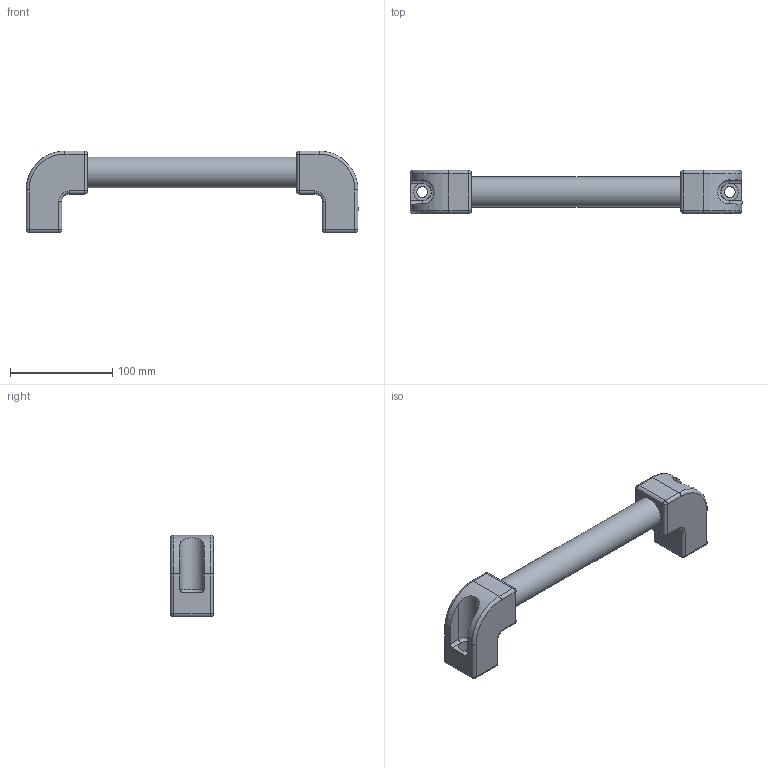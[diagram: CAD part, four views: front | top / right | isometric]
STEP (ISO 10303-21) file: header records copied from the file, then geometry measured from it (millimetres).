
FILE_DESCRIPTION( ('This file contains a STEP AP42 implementation' ,'as created by ZW3D STEP Interface translator.') ,'2;1' );
FILE_NAME( 'R30-300.stp' ,'26 817.1231 6', (''), ('ZWCAD Software Co.'), 'Version 1.0', 'ZW3D to STEP translator', '' );
FILE_SCHEMA(('AP242_MANAGED_MODEL_BASED_3D_ENGINEERING_MIM_LF { 1 0 10303 442 1 1 4 }'));
Length unit declared in the file: millimetre
Products named in the file (1): 0
Bounding box: 324 x 42 x 80 mm (x, y, z)
Volume: 259837.5 mm3; surface area: 87133.9 mm2
Topology: 3 solids, 3 shells, 104 faces, 216 edges, 122 vertices
Faces by surface type: cylinder 50, plane 28, sphere 16, torus 10
Full cylindrical faces by diameter (mm): 10.5 x2, 17 x2, 26 x1, 30 x3
Entity records: 2885 total; most frequent: DIRECTION 538, CARTESIAN_POINT 467, ORIENTED_EDGE 428, AXIS2_PLACEMENT_3D 219, EDGE_CURVE 214, VERTEX_POINT 120, CIRCLE 114, EDGE_LOOP 114
